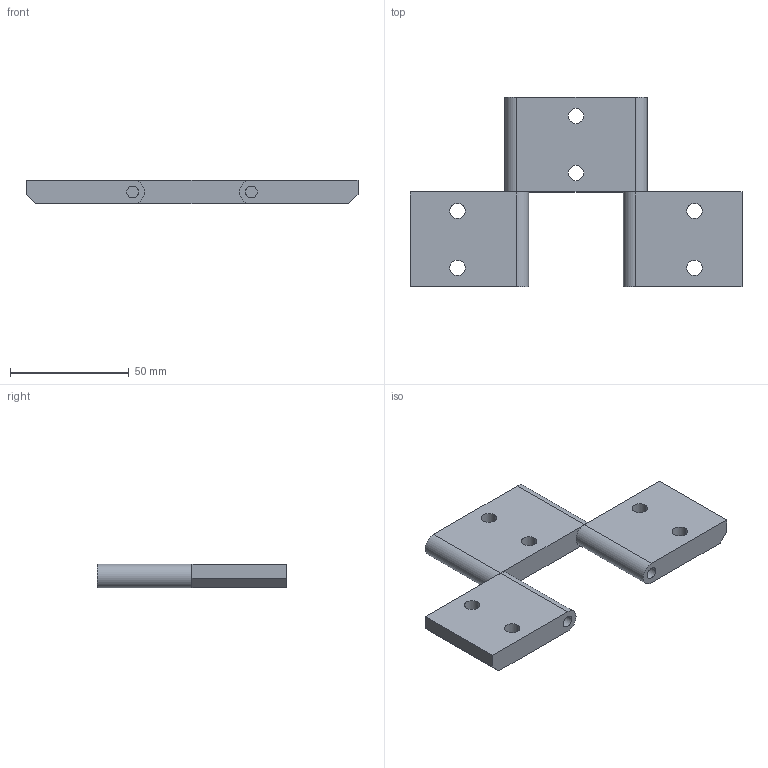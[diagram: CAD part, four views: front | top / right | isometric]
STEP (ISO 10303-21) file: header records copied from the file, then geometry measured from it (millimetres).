
FILE_DESCRIPTION((''),'2;1');
FILE_NAME('CEP4545D_ASM','2002-12-27T',('Lipro doo'),('Lipro d.o.o.'),'PRO/ENGINEER BY PARAMETRIC TECHNOLOGY CORPORATION, 2001150','PRO/ENGINEER BY PARAMETRIC TECHNOLOGY CORPORATION, 2001150','');
FILE_SCHEMA(('CONFIG_CONTROL_DESIGN'));
Length unit declared in the file: millimetre
Products named in the file (4): OS_FI5X60; CEP45_D; CEP45_1; CEP4545D_ASM
Assembly tree (5 placements, depth 2):
  CEP4545D_ASM
    OS_FI5X60  x2
    CEP45_D
    CEP45_1  x2
Bounding box: 140 x 80 x 10 mm (x, y, z)
Volume: 58145.8 mm3; surface area: 22409.7 mm2
Topology: 5 solids, 5 shells, 60 faces, 138 edges, 88 vertices
Faces by surface type: cylinder 28, plane 20, cone 12
Entity records: 1287 total; most frequent: DIRECTION 233, CARTESIAN_POINT 197, ORIENTED_EDGE 182, AXIS2_PLACEMENT_3D 94, EDGE_CURVE 91, VERTEX_POINT 58, EDGE_LOOP 53, CIRCLE 46
